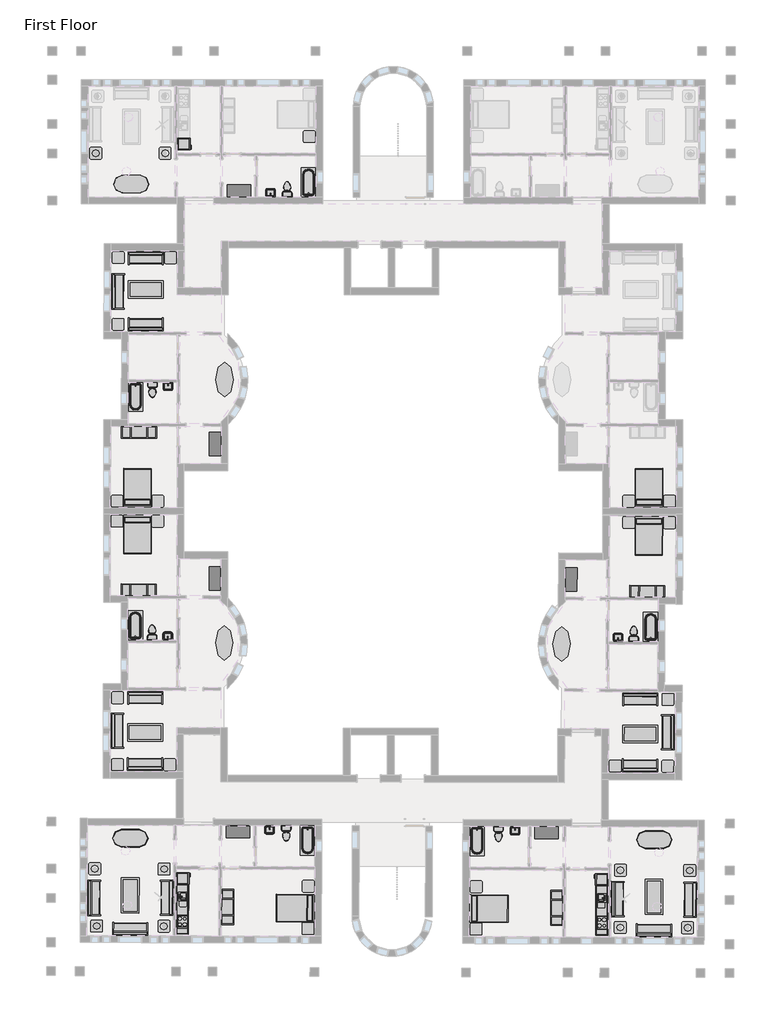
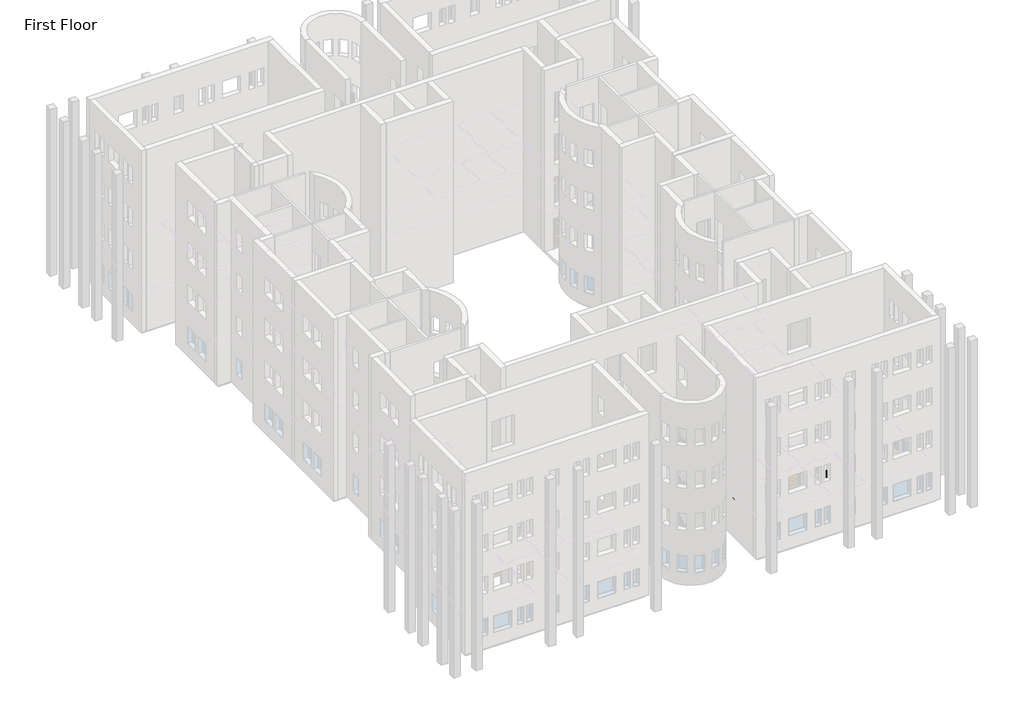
# One storey, part 21 of 22: 77 furniture elements, 20 flow terminals, 9 proxies.
"""IFC4 building model written with IfcOpenShell, lengths in millimetres."""

from ifc_helpers import new_model, si_unit, origin, place, context, project, spatial, transform, mapped, element, save
from components import m_cook_top_4_unit2_0615_x_500mm_249f3515, m_cook_top_4_unit2_0615_x_500mm_c91639ce, m_dishwasher_610_x_610_x_875mm_54ecfc4c, m_dishwasher_610_x_610_x_875mm_75336c20, m_kitchenette_medium_2591_ce898a11, m_kitchenette_medium_2591_5feaf90f, m_refrigerator_600_x_660mm_a466bf94, m_refrigerator_600_x_660mm_0a899b9c, m_sink_kitchen_island_450_x_450mm_f969cf2d, m_sink_kitchen_island_450_x_450mm_f6c2c534, m_sink_vanity_square_500_x_440mm_1e229b74, m_sink_vanity_square_500_x_440mm_f3cfe680, m_toilet_domestic_3d_m_toilet_domestic_3d_5cb52bd4, m_toilet_domestic_3d_m_toilet_domestic_3d_183bbd19, m_toilet_domestic_3d_m_toilet_domestic_3d_43425dfb, m_toilet_domestic_3d_m_toilet_domestic_3d_5530cc89, m_tub_rectangular_3d_m_tub_rectangular_3d_3a981ad5, m_tub_rectangular_3d_m_tub_rectangular_3d_c2020133, m_bed_shaker_1422_x_1981mm_double_096e7f55, m_bed_shaker_1422_x_1981mm_double_097b173b, m_counter_top_w_sink_hole_600mm_depth_5db41418, m_counter_top_w_sink_hole_600mm_depth_42226178, m_dresser_1220_x_1525_x_0610mm_18e1f140, m_dresser_1220_x_1525_x_0610mm_4e5de046, m_entertainment_center_1830_x_1830_x_0610mm_f77a9b93, m_entertainment_center_1830_x_1830_x_0610mm_4f6058a0, m_sofa_1830mm_58d08fc1, m_sofa_1830mm_3da2e71b, m_sofa1_1830mm_f9e8a66b, m_sofa1_1830mm_493d6964, m_table_coffee_0915_x_1830_x_0457mm_134cd960, m_table_coffee_0915_x_1830_x_0457mm_595c1ebd, m_table_dining_oval_0915_x_1830mm_a7cfbe21, m_table_dining_oval_0915_x_1830mm_ad8305c5, m_table_ellipse_1800_x_900mm_fd46d5a5, m_table_ellipse_1800_x_900mm_f7269293, m_table_end_cb6ea12e, m_table_end_aa2764bc, m_table_end_0610_x_0160mm_e0e5b28f, m_table_end_0610_x_0160mm_ccef8dc9

model = new_model("IFC4")

# Units and contexts
model_context = context("Model", 3, world=origin())
ifc_project = project(units=[si_unit("LENGTHUNIT", "METRE", prefix="MILLI")], contexts=[model_context])

# Site, building, storey
site = spatial("IfcSite", under=ifc_project)
building = spatial("IfcBuilding", under=site)
storey = spatial("IfcBuildingStorey", under=building, Name="First Floor", Elevation=0.0)

# Proxies
placement = place(None, origin())
m_cook_top_4_unit2_0615_x_500mm_shape = m_cook_top_4_unit2_0615_x_500mm_249f3515(model_context)
element("IfcBuildingElementProxy", 1, Name="M_Cook Top-4 Unit2 : 0615 x 500mm", ObjectType="M_Cook Top-4 Unit2 : 0615 x 500mm", at=placement, inside=storey, context=model_context, shape_type="MappedRepresentation", body=[
    mapped(m_cook_top_4_unit2_0615_x_500mm_shape, transform((-29920.9332305, -40997.2205846, 0.0), x_axis=(0.0028948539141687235, 0.9999958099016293, 0.0), y_axis=(-0.9999958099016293, 0.0028948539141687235, 0.0), z_axis=(0.0, 0.0, 1.0))),
])
m_cook_top_4_unit2_0615_x_500mm_2_shape = m_cook_top_4_unit2_0615_x_500mm_c91639ce(model_context)
element("IfcBuildingElementProxy", 2, Name="M_Cook Top-4 Unit2 : 0615 x 500mm", ObjectType="M_Cook Top-4 Unit2 : 0615 x 500mm", at=placement, inside=storey, context=model_context, shape_type="MappedRepresentation", body=[
    mapped(m_cook_top_4_unit2_0615_x_500mm_2_shape, transform((-8116.8245922, -41060.3405583, 0.0), x_axis=(0.0028948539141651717, 0.9999958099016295, 0.0), y_axis=(-0.9999958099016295, 0.0028948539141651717, 0.0), z_axis=(0.0, 0.0, 1.0))),
])
m_dishwasher_610_x_610_x_875mm_shape = m_dishwasher_610_x_610_x_875mm_54ecfc4c(model_context)
element("IfcBuildingElementProxy", 3, Name="M_Dishwasher : 610 x 610 x 875mm", ObjectType="M_Dishwasher : 610 x 610 x 875mm", at=placement, inside=storey, context=model_context, shape_type="MappedRepresentation", body=[
    mapped(m_dishwasher_610_x_610_x_875mm_shape, transform((-29650.6496208, -39742.2652263, 0.0), x_axis=(0.0028948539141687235, 0.9999958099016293, 0.0), y_axis=(-0.9999958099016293, 0.0028948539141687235, 0.0), z_axis=(0.0, 0.0, 1.0))),
])
m_dishwasher_610_x_610_x_875mm_2_shape = m_dishwasher_610_x_610_x_875mm_75336c20(model_context)
element("IfcBuildingElementProxy", 4, Name="M_Dishwasher : 610 x 610 x 875mm", ObjectType="M_Dishwasher : 610 x 610 x 875mm", at=placement, inside=storey, context=model_context, shape_type="MappedRepresentation", body=[
    mapped(m_dishwasher_610_x_610_x_875mm_2_shape, transform((-8379.8378775, -39803.8413769, 0.0), x_axis=(0.0028948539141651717, 0.9999958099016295, 0.0), y_axis=(-0.9999958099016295, 0.0028948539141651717, 0.0), z_axis=(0.0, 0.0, 1.0))),
])
m_kitchenette_medium_2591_shape = m_kitchenette_medium_2591_ce898a11(model_context)
element("IfcBuildingElementProxy", 5, Name="M_Kitchenette - Medium : 2591", ObjectType="M_Kitchenette - Medium : 2591", at=placement, inside=storey, context=model_context, shape_type="MappedRepresentation", body=[
    mapped(m_kitchenette_medium_2591_shape, transform((-30224.1110538, -40367.3279947, 0.0), x_axis=(0.0028948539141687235, 0.9999958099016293, 0.0), y_axis=(-0.9999958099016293, 0.0028948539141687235, 0.0), z_axis=(0.0, 0.0, 1.0))),
])
m_kitchenette_medium_2591_2_shape = m_kitchenette_medium_2591_5feaf90f(model_context)
element("IfcBuildingElementProxy", 6, Name="M_Kitchenette - Medium : 2591", ObjectType="M_Kitchenette - Medium : 2591", at=placement, inside=storey, context=model_context, shape_type="MappedRepresentation", body=[
    mapped(m_kitchenette_medium_2591_2_shape, transform((-7810.0049715, -40432.2138293, 0.0), x_axis=(0.0028948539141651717, 0.9999958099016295, 0.0), y_axis=(-0.9999958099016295, 0.0028948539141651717, 0.0), z_axis=(0.0, 0.0, 1.0))),
])
m_refrigerator_600_x_660mm_shape = m_refrigerator_600_x_660mm_a466bf94(model_context)
element("IfcBuildingElementProxy", 7, Name="M_Refrigerator : 600 x 660mm", ObjectType="M_Refrigerator : 600 x 660mm", at=placement, inside=storey, context=model_context, shape_type="MappedRepresentation", body=[
    mapped(m_refrigerator_600_x_660mm_shape, transform((-29923.068476, -38700.1536358, 0.0), x_axis=(0.0028948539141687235, 0.9999958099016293, 0.0), y_axis=(-0.9999958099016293, 0.0028948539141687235, 0.0), z_axis=(0.0, 0.0, 1.0))),
])
m_refrigerator_600_x_660mm_2_shape = m_refrigerator_600_x_660mm_0a899b9c(model_context)
element("IfcBuildingElementProxy", 8, Name="M_Refrigerator : 600 x 660mm", ObjectType="M_Refrigerator : 600 x 660mm", at=placement, inside=storey, context=model_context, shape_type="MappedRepresentation", body=[
    mapped(m_refrigerator_600_x_660mm_2_shape, transform((-29867.9765301, -638.2464817, 0.0), x_axis=(0.0, -1.0, 0.0), y_axis=(1.0, 0.0, 0.0), z_axis=(0.0, 0.0, 1.0))),
])
element("IfcBuildingElementProxy", 9, Name="M_Refrigerator : 600 x 660mm", ObjectType="M_Refrigerator : 600 x 660mm", at=placement, inside=storey, context=model_context, shape_type="MappedRepresentation", body=[
    mapped(m_refrigerator_600_x_660mm_2_shape, transform((-8101.3900917, -38763.3244716, 0.0), x_axis=(0.0028948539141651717, 0.9999958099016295, 0.0), y_axis=(-0.9999958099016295, 0.0028948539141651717, 0.0), z_axis=(0.0, 0.0, 1.0))),
])

# Flow terminals
m_sink_kitchen_island_450_x_450mm_shape = m_sink_kitchen_island_450_x_450mm_f969cf2d(model_context)
element("IfcFlowTerminal", 10, ObjectType="M_Sink Kitchen-Island : 450 x 450mm", at=placement, inside=storey, context=model_context, shape_type="MappedRepresentation", body=[
    mapped(m_sink_kitchen_island_450_x_450mm_shape, transform((-29914.882974, -39717.4219773, 0.0), x_axis=(0.0028948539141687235, 0.9999958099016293, 0.0), y_axis=(-0.9999958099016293, 0.0028948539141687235, 0.0), z_axis=(0.0, 0.0, 1.0))),
])
m_sink_kitchen_island_450_x_450mm_2_shape = m_sink_kitchen_island_450_x_450mm_f6c2c534(model_context)
element("IfcFlowTerminal", 11, ObjectType="M_Sink Kitchen-Island : 450 x 450mm", at=placement, inside=storey, context=model_context, shape_type="MappedRepresentation", body=[
    mapped(m_sink_kitchen_island_450_x_450mm_2_shape, transform((-8115.4651183, -39780.5283718, 0.0), x_axis=(0.0028948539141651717, 0.9999958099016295, 0.0), y_axis=(-0.9999958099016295, 0.0028948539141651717, 0.0), z_axis=(0.0, 0.0, 1.0))),
])
m_sink_vanity_square_500_x_440mm_shape = m_sink_vanity_square_500_x_440mm_1e229b74(model_context)
element("IfcFlowTerminal", 12, ObjectType="M_Sink Vanity-Square : 500 x 440mm", at=placement, inside=storey, context=model_context, shape_type="MappedRepresentation", body=[
    mapped(m_sink_vanity_square_500_x_440mm_shape, transform((-30677.3455366, -13134.5069817, 0.0), x_axis=(0.9999989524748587, -0.001447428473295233, 0.0), y_axis=(0.0014474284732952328, 0.9999989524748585, 0.0), z_axis=(0.0, 0.0, 0.9999999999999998))),
])
element("IfcFlowTerminal", 13, ObjectType="M_Sink Vanity-Square : 500 x 440mm", at=placement, inside=storey, context=model_context, shape_type="MappedRepresentation", body=[
    mapped(m_sink_vanity_square_500_x_440mm_shape, transform((-7255.849628, -26269.4593372, 0.0), x_axis=(-0.9999905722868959, 0.00434227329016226, 0.0), y_axis=(-0.0043422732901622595, -0.9999905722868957, 0.0), z_axis=(0.0, 0.0, 0.9999999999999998))),
])
element("IfcFlowTerminal", 14, ObjectType="M_Sink Vanity-Square : 500 x 440mm", at=placement, inside=storey, context=model_context, shape_type="MappedRepresentation", body=[
    mapped(m_sink_vanity_square_500_x_440mm_shape, transform((-25398.4470959, -36193.3769715, 0.0), x_axis=(0.9999958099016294, -0.0028948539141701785, 0.0), y_axis=(0.0028948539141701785, 0.9999958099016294, 0.0), z_axis=(0.0, 0.0, 1.0))),
])
m_sink_vanity_square_500_x_440mm_2_shape = m_sink_vanity_square_500_x_440mm_f3cfe680(model_context)
element("IfcFlowTerminal", 15, ObjectType="M_Sink Vanity-Square : 500 x 440mm", at=placement, inside=storey, context=model_context, shape_type="MappedRepresentation", body=[
    mapped(m_sink_vanity_square_500_x_440mm_2_shape, transform((-25350.6308609, -3158.1107603, 0.0), x_axis=(1.0, 0.0, 0.0), y_axis=(0.0, 1.0, 0.0), z_axis=(0.0, 0.0, 1.0))),
])
element("IfcFlowTerminal", 16, ObjectType="M_Sink Vanity-Square : 500 x 440mm", at=placement, inside=storey, context=model_context, shape_type="MappedRepresentation", body=[
    mapped(m_sink_vanity_square_500_x_440mm_2_shape, transform((-12611.4221939, -36230.3936957, 0.0), x_axis=(-0.9999958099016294, 0.002894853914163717, 0.0), y_axis=(-0.002894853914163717, -0.9999958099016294, 0.0), z_axis=(0.0, 0.0, 1.0))),
])
element("IfcFlowTerminal", 17, ObjectType="M_Sink Vanity-Square : 500 x 440mm", at=placement, inside=storey, context=model_context, shape_type="MappedRepresentation", body=[
    mapped(m_sink_vanity_square_500_x_440mm_2_shape, transform((-30696.2592425, -26201.6024913, 0.0), x_axis=(0.9999989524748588, -0.001447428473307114, 0.0), y_axis=(0.0014474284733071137, 0.9999989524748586, 0.0), z_axis=(0.0, 0.0, 0.9999999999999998))),
])
m_toilet_domestic_3d_m_toilet_domestic_3d_shape = m_toilet_domestic_3d_m_toilet_domestic_3d_5cb52bd4(model_context)
m_toilet_domestic_3d_m_toilet_domestic_3d_2_shape = m_toilet_domestic_3d_m_toilet_domestic_3d_183bbd19(model_context)
element("IfcFlowTerminal", 18, ObjectType="M_Toilet-Domestic-3D : M_Toilet-Domestic-3D", at=placement, inside=storey, context=model_context, shape_type="MappedRepresentation", body=[
    mapped(m_toilet_domestic_3d_m_toilet_domestic_3d_shape, transform((-24522.1713775, -36508.8406097, 0.0), x_axis=(0.9999958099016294, -0.00289485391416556, 0.0), y_axis=(0.00289485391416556, 0.9999958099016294, 0.0), z_axis=(0.0, 0.0, 1.0))),
    mapped(m_toilet_domestic_3d_m_toilet_domestic_3d_2_shape, transform((-24522.1713775, -36508.8406097, 0.0), x_axis=(0.9999958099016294, -0.00289485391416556, 0.0), y_axis=(0.00289485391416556, 0.9999958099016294, 0.0), z_axis=(0.0, 0.0, 1.0))),
])
m_toilet_domestic_3d_m_toilet_domestic_3d_3_shape = m_toilet_domestic_3d_m_toilet_domestic_3d_43425dfb(model_context)
m_toilet_domestic_3d_m_toilet_domestic_3d_4_shape = m_toilet_domestic_3d_m_toilet_domestic_3d_5530cc89(model_context)
element("IfcFlowTerminal", 19, ObjectType="M_Toilet-Domestic-3D : M_Toilet-Domestic-3D", at=placement, inside=storey, context=model_context, shape_type="MappedRepresentation", body=[
    mapped(m_toilet_domestic_3d_m_toilet_domestic_3d_3_shape, transform((-24473.445593, -2845.185134, 0.0), x_axis=(1.0, 0.0, 0.0), y_axis=(0.0, 1.0, 0.0), z_axis=(0.0, 0.0, 1.0))),
    mapped(m_toilet_domestic_3d_m_toilet_domestic_3d_4_shape, transform((-24473.445593, -2845.185134, 0.0), x_axis=(1.0, 0.0, 0.0), y_axis=(0.0, 1.0, 0.0), z_axis=(0.0, 0.0, 1.0))),
])
element("IfcFlowTerminal", 20, ObjectType="M_Toilet-Domestic-3D : M_Toilet-Domestic-3D", at=placement, inside=storey, context=model_context, shape_type="MappedRepresentation", body=[
    mapped(m_toilet_domestic_3d_m_toilet_domestic_3d_3_shape, transform((-13489.5096603, -36540.7786875, 0.0), x_axis=(-0.9999958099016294, 0.002894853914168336, 0.0), y_axis=(-0.002894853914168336, -0.9999958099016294, 0.0), z_axis=(0.0, 0.0, 1.0))),
    mapped(m_toilet_domestic_3d_m_toilet_domestic_3d_4_shape, transform((-13489.5096603, -36540.7786875, 0.0), x_axis=(-0.9999958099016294, 0.002894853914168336, 0.0), y_axis=(-0.002894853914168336, -0.9999958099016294, 0.0), z_axis=(0.0, 0.0, 1.0))),
])
element("IfcFlowTerminal", 21, ObjectType="M_Toilet-Domestic-3D1 : M_Toilet-Domestic-3D", at=placement, inside=storey, context=model_context, shape_type="MappedRepresentation", body=[
    mapped(m_toilet_domestic_3d_m_toilet_domestic_3d_shape, transform((-31475.0435019, -13456.0033339, 0.0), x_axis=(0.9999989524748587, -0.001447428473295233, 0.0), y_axis=(0.0014474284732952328, 0.9999989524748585, 0.0), z_axis=(0.0, 0.0, 0.9999999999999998))),
    mapped(m_toilet_domestic_3d_m_toilet_domestic_3d_2_shape, transform((-31475.0435019, -13456.0033339, 0.0), x_axis=(0.9999989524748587, -0.001447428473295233, 0.0), y_axis=(0.0014474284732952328, 0.9999989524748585, 0.0), z_axis=(0.0, 0.0, 0.9999999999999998))),
])
element("IfcFlowTerminal", 22, ObjectType="M_Toilet-Domestic-3D1 : M_Toilet-Domestic-3D", at=placement, inside=storey, context=model_context, shape_type="MappedRepresentation", body=[
    mapped(m_toilet_domestic_3d_m_toilet_domestic_3d_shape, transform((-6457.2243201, -25950.2735511, 0.0), x_axis=(-0.9999905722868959, 0.00434227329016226, 0.0), y_axis=(-0.0043422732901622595, -0.9999905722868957, 0.0), z_axis=(0.0, 0.0, 0.9999999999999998))),
    mapped(m_toilet_domestic_3d_m_toilet_domestic_3d_2_shape, transform((-6457.2243201, -25950.2735511, 0.0), x_axis=(-0.9999905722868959, 0.00434227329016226, 0.0), y_axis=(-0.0043422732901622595, -0.9999905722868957, 0.0), z_axis=(0.0, 0.0, 0.9999999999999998))),
])
element("IfcFlowTerminal", 23, ObjectType="M_Toilet-Domestic-3D1 : M_Toilet-Domestic-3D", at=placement, inside=storey, context=model_context, shape_type="MappedRepresentation", body=[
    mapped(m_toilet_domestic_3d_m_toilet_domestic_3d_3_shape, transform((-31493.0231805, -25877.7982671, 0.0), x_axis=(0.9999989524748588, -0.001447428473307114, 0.0), y_axis=(0.0014474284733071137, 0.9999989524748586, 0.0), z_axis=(0.0, 0.0, 0.9999999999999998))),
    mapped(m_toilet_domestic_3d_m_toilet_domestic_3d_4_shape, transform((-31493.0231805, -25877.7982671, 0.0), x_axis=(0.9999989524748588, -0.001447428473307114, 0.0), y_axis=(0.0014474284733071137, 0.9999989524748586, 0.0), z_axis=(0.0, 0.0, 0.9999999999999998))),
])
m_tub_rectangular_3d_m_tub_rectangular_3d_shape = m_tub_rectangular_3d_m_tub_rectangular_3d_3a981ad5(model_context)
element("IfcFlowTerminal", 24, ObjectType="M_Tub-Rectangular-3D : M_Tub-Rectangular-3D", at=placement, inside=storey, context=model_context, shape_type="MappedRepresentation", body=[
    mapped(m_tub_rectangular_3d_m_tub_rectangular_3d_shape, transform((-22854.3573612, -37129.57823, 0.0), x_axis=(-0.0028948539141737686, -0.9999958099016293, 0.0), y_axis=(0.9999958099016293, -0.0028948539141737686, 0.0), z_axis=(0.0, 0.0, 1.0))),
])
element("IfcFlowTerminal", 25, ObjectType="M_Tub-Rectangular-3D : M_Tub-Rectangular-3D", at=placement, inside=storey, context=model_context, shape_type="MappedRepresentation", body=[
    mapped(m_tub_rectangular_3d_m_tub_rectangular_3d_shape, transform((-32926.5841692, -25259.8157014, 0.0), x_axis=(0.0014474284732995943, 0.9999989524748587, 0.0), y_axis=(-0.9999989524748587, 0.0014474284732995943, 0.0), z_axis=(0.0, 0.0, 1.0))),
])
m_tub_rectangular_3d_m_tub_rectangular_3d_2_shape = m_tub_rectangular_3d_m_tub_rectangular_3d_c2020133(model_context)
element("IfcFlowTerminal", 26, ObjectType="M_Tub-Rectangular-3D : M_Tub-Rectangular-3D", at=placement, inside=storey, context=model_context, shape_type="MappedRepresentation", body=[
    mapped(m_tub_rectangular_3d_m_tub_rectangular_3d_2_shape, transform((-22803.8416203, -2229.2781927, 0.0), x_axis=(0.0, 1.0, 0.0), y_axis=(-1.0, 0.0, 0.0), z_axis=(0.0, 0.0, 1.0))),
])
element("IfcFlowTerminal", 27, ObjectType="M_Tub-Rectangular-3D : M_Tub-Rectangular-3D", at=placement, inside=storey, context=model_context, shape_type="MappedRepresentation", body=[
    mapped(m_tub_rectangular_3d_m_tub_rectangular_3d_2_shape, transform((-32910.3874532, -14069.8333606, 0.0), x_axis=(-0.0014474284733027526, -0.9999989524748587, 0.0), y_axis=(0.9999989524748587, -0.0014474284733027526, 0.0), z_axis=(0.0, 0.0, 1.0))),
])
element("IfcFlowTerminal", 28, ObjectType="M_Tub-Rectangular-3D : M_Tub-Rectangular-3D", at=placement, inside=storey, context=model_context, shape_type="MappedRepresentation", body=[
    mapped(m_tub_rectangular_3d_m_tub_rectangular_3d_2_shape, transform((-15160.8895978, -37151.8497886, 0.0), x_axis=(-0.0028948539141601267, -0.9999958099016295, 0.0), y_axis=(0.9999958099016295, -0.0028948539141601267, 0.0), z_axis=(0.0, 0.0, 1.0))),
])
element("IfcFlowTerminal", 29, ObjectType="M_Tub-Rectangular-3D : M_Tub-Rectangular-3D", at=placement, inside=storey, context=model_context, shape_type="MappedRepresentation", body=[
    mapped(m_tub_rectangular_3d_m_tub_rectangular_3d_2_shape, transform((-5020.1094348, -25340.6012075, 0.0), x_axis=(0.004342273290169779, 0.9999905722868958, 0.0), y_axis=(-0.9999905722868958, 0.004342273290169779, 0.0), z_axis=(0.0, 0.0, 1.0))),
])

# Furniture
m_bed_shaker_1422_x_1981mm_double_shape = m_bed_shaker_1422_x_1981mm_double_096e7f55(model_context)
element("IfcFurniture", 30, ObjectType="M_Bed-Shaker : 1422 x 1981mm - Double", at=placement, inside=storey, context=model_context, shape_type="MappedRepresentation", body=[
    mapped(m_bed_shaker_1422_x_1981mm_double_shape, transform((-32265.3963493, -19430.7695861, 0.0), x_axis=(-0.9999989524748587, 0.0014474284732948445, 0.0), y_axis=(-0.0014474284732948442, -0.9999989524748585, 0.0), z_axis=(0.0, 0.0, 0.9999999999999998))),
])
element("IfcFurniture", 31, ObjectType="M_Bed-Shaker : 1422 x 1981mm - Double", at=placement, inside=storey, context=model_context, shape_type="MappedRepresentation", body=[
    mapped(m_bed_shaker_1422_x_1981mm_double_shape, transform((-5649.5787089, -19977.8202898, 0.0), x_axis=(0.9999905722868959, -0.004342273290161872, 0.0), y_axis=(0.004342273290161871, 0.9999905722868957, 0.0), z_axis=(0.0, 0.0, 0.9999999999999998))),
])
element("IfcFurniture", 32, ObjectType="M_Bed-Shaker : 1422 x 1981mm - Double", at=placement, inside=storey, context=model_context, shape_type="MappedRepresentation", body=[
    mapped(m_bed_shaker_1422_x_1981mm_double_shape, transform((-23068.6004859, -40322.2184362, 0.0), x_axis=(-0.002894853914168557, -0.9999958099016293, 0.0), y_axis=(0.9999958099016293, -0.002894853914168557, 0.0), z_axis=(0.0, 0.0, 1.0))),
])
m_bed_shaker_1422_x_1981mm_double_2_shape = m_bed_shaker_1422_x_1981mm_double_097b173b(model_context)
element("IfcFurniture", 33, ObjectType="M_Bed-Shaker : 1422 x 1981mm - Double", at=placement, inside=storey, context=model_context, shape_type="MappedRepresentation", body=[
    mapped(m_bed_shaker_1422_x_1981mm_double_2_shape, transform((-5648.7868913, -19430.7695861, 0.0), x_axis=(0.9999989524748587, 0.0014474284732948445, 0.0), y_axis=(-0.0014474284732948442, 0.9999989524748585, 0.0), z_axis=(0.0, 0.0, 0.9999999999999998))),
])
element("IfcFurniture", 34, ObjectType="M_Bed-Shaker : 1422 x 1981mm - Double", at=placement, inside=storey, context=model_context, shape_type="MappedRepresentation", body=[
    mapped(m_bed_shaker_1422_x_1981mm_double_2_shape, transform((-14965.1344404, -40345.6768849, 0.0), x_axis=(-0.0028948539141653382, -0.9999958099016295, 0.0), y_axis=(0.9999958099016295, -0.0028948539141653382, 0.0), z_axis=(0.0, 0.0, 1.0))),
])
element("IfcFurniture", 35, ObjectType="M_Bed-Shaker : 1422 x 1981mm - Double", at=placement, inside=storey, context=model_context, shape_type="MappedRepresentation", body=[
    mapped(m_bed_shaker_1422_x_1981mm_double_2_shape, transform((-32266.0766407, -19900.7690938, 0.0), x_axis=(-0.9999989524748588, 0.0014474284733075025, 0.0), y_axis=(-0.0014474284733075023, -0.9999989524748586, 0.0), z_axis=(0.0, 0.0, 0.9999999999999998))),
])
m_counter_top_w_sink_hole_600mm_depth_shape = m_counter_top_w_sink_hole_600mm_depth_5db41418(model_context)
element("IfcFurniture", 36, ObjectType="M_Counter Top w Sink Hole : 600mm Depth", at=placement, inside=storey, context=model_context, shape_type="MappedRepresentation", body=[
    mapped(m_counter_top_w_sink_hole_600mm_depth_shape, transform((-30222.5675177, -39834.1302289, 0.0), x_axis=(0.0028948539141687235, 0.9999958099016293, 0.0), y_axis=(-0.9999958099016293, 0.0028948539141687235, 0.0), z_axis=(0.0, 0.0, 1.0))),
])
m_counter_top_w_sink_hole_600mm_depth_2_shape = m_counter_top_w_sink_hole_600mm_depth_42226178(model_context)
element("IfcFurniture", 37, ObjectType="M_Counter Top w Sink Hole : 600mm Depth", at=placement, inside=storey, context=model_context, shape_type="MappedRepresentation", body=[
    mapped(m_counter_top_w_sink_hole_600mm_depth_2_shape, transform((-7808.4614354, -39899.0160635, 0.0), x_axis=(0.0028948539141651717, 0.9999958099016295, 0.0), y_axis=(-0.9999958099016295, 0.0028948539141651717, 0.0), z_axis=(0.0, 0.0, 1.0))),
])
m_dresser_1220_x_1525_x_0610mm_shape = m_dresser_1220_x_1525_x_0610mm_18e1f140(model_context)
element("IfcFurniture", 38, ObjectType="M_Dresser : 1220 x 1525 x 0610mm", at=placement, inside=storey, context=model_context, shape_type="MappedRepresentation", body=[
    mapped(m_dresser_1220_x_1525_x_0610mm_shape, transform((-28574.6164889, -15914.9147832, 0.0), x_axis=(0.0014474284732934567, 0.9999989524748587, 0.0), y_axis=(-0.9999989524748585, 0.0014474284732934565, 0.0), z_axis=(0.0, 0.0, 0.9999999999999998))),
])
element("IfcFurniture", 39, ObjectType="M_Dresser : 1220 x 1525 x 0610mm", at=placement, inside=storey, context=model_context, shape_type="MappedRepresentation", body=[
    mapped(m_dresser_1220_x_1525_x_0610mm_shape, transform((-9350.5209907, -23482.9760924, 0.0), x_axis=(-0.004342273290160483, -0.9999905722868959, 0.0), y_axis=(0.9999905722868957, -0.004342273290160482, 0.0), z_axis=(0.0, 0.0, 0.9999999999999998))),
])
element("IfcFurniture", 40, ObjectType="M_Dresser : 1220 x 1525 x 0610mm", at=placement, inside=storey, context=model_context, shape_type="MappedRepresentation", body=[
    mapped(m_dresser_1220_x_1525_x_0610mm_shape, transform((-27295.820683, -36698.2790207, 0.0), x_axis=(-0.9999958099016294, 0.0028948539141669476, 0.0), y_axis=(-0.0028948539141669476, -0.9999958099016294, 0.0), z_axis=(0.0, 0.0, 1.0))),
])
m_dresser_1220_x_1525_x_0610mm_2_shape = m_dresser_1220_x_1525_x_0610mm_4e5de046(model_context)
element("IfcFurniture", 41, ObjectType="M_Dresser : 1220 x 1525 x 0610mm", at=placement, inside=storey, context=model_context, shape_type="MappedRepresentation", body=[
    mapped(m_dresser_1220_x_1525_x_0610mm_2_shape, transform((-27246.5348802, -2647.7182073, 0.0), x_axis=(-1.0, 0.0, 0.0), y_axis=(0.0, -1.0, 0.0), z_axis=(0.0, 0.0, 1.0))),
])
element("IfcFurniture", 42, ObjectType="M_Dresser : 1220 x 1525 x 0610mm", at=placement, inside=storey, context=model_context, shape_type="MappedRepresentation", body=[
    mapped(m_dresser_1220_x_1525_x_0610mm_2_shape, transform((-10717.0036305, -36746.2724752, 0.0), x_axis=(0.9999958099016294, -0.002894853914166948, 0.0), y_axis=(0.002894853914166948, 0.9999958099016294, 0.0), z_axis=(0.0, 0.0, 1.0))),
])
element("IfcFurniture", 43, ObjectType="M_Dresser : 1220 x 1525 x 0610mm", at=placement, inside=storey, context=model_context, shape_type="MappedRepresentation", body=[
    mapped(m_dresser_1220_x_1525_x_0610mm_2_shape, transform((-28585.490131, -23427.2934334, 0.0), x_axis=(-0.0014474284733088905, -0.9999989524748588, 0.0), y_axis=(0.9999989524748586, -0.0014474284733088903, 0.0), z_axis=(0.0, 0.0, 0.9999999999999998))),
])
m_entertainment_center_1830_x_1830_x_0610mm_shape = m_entertainment_center_1830_x_1830_x_0610mm_f77a9b93(model_context)
element("IfcFurniture", 44, ObjectType="M_Entertainment center : 1830 x 1830 x 0610mm", at=placement, inside=storey, context=model_context, shape_type="MappedRepresentation", body=[
    mapped(m_entertainment_center_1830_x_1830_x_0610mm_shape, transform((-32173.151944, -15980.2994888, 0.0), x_axis=(-0.9999989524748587, 0.0014474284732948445, 0.0), y_axis=(-0.0014474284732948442, -0.9999989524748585, 0.0), z_axis=(0.0, 0.0, 0.9999999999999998))),
])
element("IfcFurniture", 45, ObjectType="M_Entertainment center : 1830 x 1830 x 0610mm", at=placement, inside=storey, context=model_context, shape_type="MappedRepresentation", body=[
    mapped(m_entertainment_center_1830_x_1830_x_0610mm_shape, transform((-5751.8113346, -23428.0088952, 0.0), x_axis=(0.9999905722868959, -0.004342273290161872, 0.0), y_axis=(0.004342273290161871, 0.9999905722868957, 0.0), z_axis=(0.0, 0.0, 0.9999999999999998))),
])
element("IfcFurniture", 46, ObjectType="M_Entertainment center : 1830 x 1830 x 0610mm", at=placement, inside=storey, context=model_context, shape_type="MappedRepresentation", body=[
    mapped(m_entertainment_center_1830_x_1830_x_0610mm_shape, transform((-27155.4724705, -40237.537184, 0.0), x_axis=(-0.0028948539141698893, -0.9999958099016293, 0.0), y_axis=(0.9999958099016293, -0.0028948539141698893, 0.0), z_axis=(0.0, 0.0, 1.0))),
])
m_entertainment_center_1830_x_1830_x_0610mm_2_shape = m_entertainment_center_1830_x_1830_x_0610mm_4f6058a0(model_context)
element("IfcFurniture", 47, ObjectType="M_Entertainment center : 1830 x 1830 x 0610mm", at=placement, inside=storey, context=model_context, shape_type="MappedRepresentation", body=[
    mapped(m_entertainment_center_1830_x_1830_x_0610mm_2_shape, transform((-10877.8406756, -40284.6587476, 0.0), x_axis=(-0.002894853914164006, -0.9999958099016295, 0.0), y_axis=(0.9999958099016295, -0.002894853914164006, 0.0), z_axis=(0.0, 0.0, 1.0))),
])
element("IfcFurniture", 48, ObjectType="M_Entertainment center : 1830 x 1830 x 0610mm", at=placement, inside=storey, context=model_context, shape_type="MappedRepresentation", body=[
    mapped(m_entertainment_center_1830_x_1830_x_0610mm_2_shape, transform((-32183.8212288, -23351.4917673, 0.0), x_axis=(-0.9999989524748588, 0.0014474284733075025, 0.0), y_axis=(-0.0014474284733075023, -0.9999989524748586, 0.0), z_axis=(0.0, 0.0, 0.9999999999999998))),
])
m_sofa_1830mm_shape = m_sofa_1830mm_58d08fc1(model_context)
element("IfcFurniture", 49, ObjectType="M_Sofa : 1830mm", at=placement, inside=storey, context=model_context, shape_type="MappedRepresentation", body=[
    mapped(m_sofa_1830mm_shape, transform((-32562.8997947, -41230.7335351, 0.0), x_axis=(-0.9999958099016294, 0.0028948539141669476, 0.0), y_axis=(-0.0028948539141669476, -0.9999958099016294, 0.0), z_axis=(0.0, 0.0, 1.0))),
])
element("IfcFurniture", 50, ObjectType="M_Sofa : 1830mm", at=placement, inside=storey, context=model_context, shape_type="MappedRepresentation", body=[
    mapped(m_sofa_1830mm_shape, transform((-34355.4280294, -39842.8427064, 0.0), x_axis=(0.0028948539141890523, 0.9999958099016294, 0.0), y_axis=(-0.9999958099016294, 0.0028948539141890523, 0.0), z_axis=(0.0, 0.0, 1.0))),
])
element("IfcFurniture", 51, ObjectType="M_Sofa : 1830mm", at=placement, inside=storey, context=model_context, shape_type="MappedRepresentation", body=[
    mapped(m_sofa_1830mm_shape, transform((-30883.7111212, -39691.3716975, 0.0), x_axis=(-0.002894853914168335, -0.9999958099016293, 0.0), y_axis=(0.9999958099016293, -0.002894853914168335, 0.0), z_axis=(0.0, 0.0, 1.0))),
])
m_sofa_1830mm_2_shape = m_sofa_1830mm_3da2e71b(model_context)
element("IfcFurniture", 52, ObjectType="M_Sofa : 1830mm", at=placement, inside=storey, context=model_context, shape_type="MappedRepresentation", body=[
    mapped(m_sofa_1830mm_2_shape, transform((-5476.2542745, -41309.1457454, 0.0), x_axis=(0.9999958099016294, -0.002894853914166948, 0.0), y_axis=(0.002894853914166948, 0.9999958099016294, 0.0), z_axis=(0.0, 0.0, 1.0))),
])
element("IfcFurniture", 53, ObjectType="M_Sofa : 1830mm", at=placement, inside=storey, context=model_context, shape_type="MappedRepresentation", body=[
    mapped(m_sofa_1830mm_2_shape, transform((-3675.7206344, -39931.6563496, 0.0), x_axis=(0.002894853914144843, 0.9999958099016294, 0.0), y_axis=(-0.9999958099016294, 0.002894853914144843, 0.0), z_axis=(0.0, 0.0, 1.0))),
])
element("IfcFurniture", 54, ObjectType="M_Sofa : 1830mm", at=placement, inside=storey, context=model_context, shape_type="MappedRepresentation", body=[
    mapped(m_sofa_1830mm_2_shape, transform((-7146.5023862, -39760.087737, 0.0), x_axis=(-0.0028948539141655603, -0.9999958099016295, 0.0), y_axis=(0.9999958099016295, -0.0028948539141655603, 0.0), z_axis=(0.0, 0.0, 1.0))),
])
m_sofa1_1830mm_shape = m_sofa1_1830mm_f9e8a66b(model_context)
element("IfcFurniture", 55, ObjectType="M_Sofa1 : 1830mm", at=placement, inside=storey, context=model_context, shape_type="MappedRepresentation", body=[
    mapped(m_sofa1_1830mm_shape, transform((-33110.3167447, -8323.9054813, 0.0), x_axis=(0.0014474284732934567, 0.9999989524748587, 0.0), y_axis=(-0.9999989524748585, 0.0014474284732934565, 0.0), z_axis=(0.0, 0.0, 0.9999999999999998))),
])
element("IfcFurniture", 56, ObjectType="M_Sofa1 : 1830mm", at=placement, inside=storey, context=model_context, shape_type="MappedRepresentation", body=[
    mapped(m_sofa1_1830mm_shape, transform((-31753.247914, -9808.5967065, 0.0), x_axis=(-0.9999989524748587, 0.0014474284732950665, 0.0), y_axis=(-0.0014474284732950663, -0.9999989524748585, 0.0), z_axis=(0.0, 0.0, 0.9999999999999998))),
])
element("IfcFurniture", 57, ObjectType="M_Sofa1 : 1830mm", at=placement, inside=storey, context=model_context, shape_type="MappedRepresentation", body=[
    mapped(m_sofa1_1830mm_shape, transform((-31889.4482513, -6671.4544767, 0.0), x_axis=(0.9999989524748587, -0.001447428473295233, 0.0), y_axis=(0.0014474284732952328, 0.9999989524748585, 0.0), z_axis=(0.0, 0.0, 0.9999999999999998))),
])
element("IfcFurniture", 58, ObjectType="M_Sofa1 : 1830mm", at=placement, inside=storey, context=model_context, shape_type="MappedRepresentation", body=[
    mapped(m_sofa1_1830mm_shape, transform((-4836.8146029, -31087.0837768, 0.0), x_axis=(-0.004342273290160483, -0.9999905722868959, 0.0), y_axis=(0.9999905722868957, -0.004342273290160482, 0.0), z_axis=(0.0, 0.0, 0.9999999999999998))),
])
element("IfcFurniture", 59, ObjectType="M_Sofa1 : 1830mm", at=placement, inside=storey, context=model_context, shape_type="MappedRepresentation", body=[
    mapped(m_sofa1_1830mm_shape, transform((-6189.5797831, -29598.4702567, 0.0), x_axis=(0.9999905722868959, -0.004342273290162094, 0.0), y_axis=(0.004342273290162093, 0.9999905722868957, 0.0), z_axis=(0.0, 0.0, 0.9999999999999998))),
])
element("IfcFurniture", 60, ObjectType="M_Sofa1 : 1830mm", at=placement, inside=storey, context=model_context, shape_type="MappedRepresentation", body=[
    mapped(m_sofa1_1830mm_shape, transform((-6062.461585, -32735.9936216, 0.0), x_axis=(-0.9999905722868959, 0.00434227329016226, 0.0), y_axis=(-0.0043422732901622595, -0.9999905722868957, 0.0), z_axis=(0.0, 0.0, 0.9999999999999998))),
])
m_sofa1_1830mm_2_shape = m_sofa1_1830mm_493d6964(model_context)
element("IfcFurniture", 61, ObjectType="M_Sofa1 : 1830mm", at=placement, inside=storey, context=model_context, shape_type="MappedRepresentation", body=[
    mapped(m_sofa1_1830mm_2_shape, transform((-33143.1462448, -31005.1407385, 0.0), x_axis=(-0.0014474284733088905, -0.9999989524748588, 0.0), y_axis=(0.9999989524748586, -0.0014474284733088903, 0.0), z_axis=(0.0, 0.0, 0.9999999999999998))),
])
element("IfcFurniture", 62, ObjectType="M_Sofa1 : 1830mm", at=placement, inside=storey, context=model_context, shape_type="MappedRepresentation", body=[
    mapped(m_sofa1_1830mm_2_shape, transform((-31781.7851362, -29524.3842504, 0.0), x_axis=(-0.9999989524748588, 0.0014474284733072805, 0.0), y_axis=(-0.0014474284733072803, -0.9999989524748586, 0.0), z_axis=(0.0, 0.0, 0.9999999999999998))),
])
element("IfcFurniture", 63, ObjectType="M_Sofa1 : 1830mm", at=placement, inside=storey, context=model_context, shape_type="MappedRepresentation", body=[
    mapped(m_sofa1_1830mm_2_shape, transform((-31927.0664712, -32661.1190552, 0.0), x_axis=(0.9999989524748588, -0.001447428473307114, 0.0), y_axis=(0.0014474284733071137, 0.9999989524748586, 0.0), z_axis=(0.0, 0.0, 0.9999999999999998))),
])
m_table_coffee_0915_x_1830_x_0457mm_shape = m_table_coffee_0915_x_1830_x_0457mm_134cd960(model_context)
element("IfcFurniture", 64, ObjectType="M_Table-Coffee : 0915 x 1830 x 0457mm", at=placement, inside=storey, context=model_context, shape_type="MappedRepresentation", body=[
    mapped(m_table_coffee_0915_x_1830_x_0457mm_shape, transform((-31802.8209497, -8059.4661414, 0.0), x_axis=(-0.9999989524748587, 0.0014474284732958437, 0.0), y_axis=(-0.0014474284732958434, -0.9999989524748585, 0.0), z_axis=(0.0, 0.0, 0.9999999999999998))),
])
element("IfcFurniture", 65, ObjectType="M_Table-Coffee : 0915 x 1830 x 0457mm", at=placement, inside=storey, context=model_context, shape_type="MappedRepresentation", body=[
    mapped(m_table_coffee_0915_x_1830_x_0457mm_shape, transform((-6145.0704326, -31347.7369995, 0.0), x_axis=(0.9999905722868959, -0.004342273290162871, 0.0), y_axis=(0.00434227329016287, 0.9999905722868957, 0.0), z_axis=(0.0, 0.0, 0.9999999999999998))),
])
element("IfcFurniture", 66, ObjectType="M_Table-Coffee : 0915 x 1830 x 0457mm", at=placement, inside=storey, context=model_context, shape_type="MappedRepresentation", body=[
    mapped(m_table_coffee_0915_x_1830_x_0457mm_shape, transform((-32723.8138427, -39618.1492872, 0.0), x_axis=(-0.0028948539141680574, -0.9999958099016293, 0.0), y_axis=(0.9999958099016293, -0.0028948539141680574, 0.0), z_axis=(0.0, 0.0, 1.0))),
])
m_table_coffee_0915_x_1830_x_0457mm_2_shape = m_table_coffee_0915_x_1830_x_0457mm_595c1ebd(model_context)
element("IfcFurniture", 67, ObjectType="M_Table-Coffee : 0915 x 1830 x 0457mm", at=placement, inside=storey, context=model_context, shape_type="MappedRepresentation", body=[
    mapped(m_table_coffee_0915_x_1830_x_0457mm_2_shape, transform((-5306.0065709, -39697.5201665, 0.0), x_axis=(-0.002894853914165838, -0.9999958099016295, 0.0), y_axis=(0.9999958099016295, -0.002894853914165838, 0.0), z_axis=(0.0, 0.0, 1.0))),
])
element("IfcFurniture", 68, ObjectType="M_Table-Coffee : 0915 x 1830 x 0457mm", at=placement, inside=storey, context=model_context, shape_type="MappedRepresentation", body=[
    mapped(m_table_coffee_0915_x_1830_x_0457mm_2_shape, transform((-31836.4214416, -31273.3639798, 0.0), x_axis=(-0.9999989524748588, 0.0014474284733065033, 0.0), y_axis=(-0.001447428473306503, -0.9999989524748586, 0.0), z_axis=(0.0, 0.0, 0.9999999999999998))),
])
m_table_dining_oval_0915_x_1830mm_shape = m_table_dining_oval_0915_x_1830mm_a7cfbe21(model_context)
element("IfcFurniture", 69, ObjectType="M_Table-Dining Oval : 0915 x 1830mm", at=placement, inside=storey, context=model_context, shape_type="MappedRepresentation", body=[
    mapped(m_table_dining_oval_0915_x_1830mm_shape, transform((-33022.9144028, -37024.136693, 0.0), x_axis=(-0.9999958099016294, 0.0028948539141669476, 0.0), y_axis=(-0.0028948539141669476, -0.9999958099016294, 0.0), z_axis=(0.0, 0.0, 1.0))),
])
m_table_dining_oval_0915_x_1830mm_2_shape = m_table_dining_oval_0915_x_1830mm_ad8305c5(model_context)
element("IfcFurniture", 70, ObjectType="M_Table-Dining Oval : 0915 x 1830mm", at=placement, inside=storey, context=model_context, shape_type="MappedRepresentation", body=[
    mapped(m_table_dining_oval_0915_x_1830mm_2_shape, transform((-32972.6612925, -2305.2828007, 0.0), x_axis=(-1.0, 0.0, 0.0), y_axis=(0.0, -1.0, 0.0), z_axis=(0.0, 0.0, 1.0))),
])
element("IfcFurniture", 71, ObjectType="M_Table-Dining Oval : 0915 x 1830mm", at=placement, inside=storey, context=model_context, shape_type="MappedRepresentation", body=[
    mapped(m_table_dining_oval_0915_x_1830mm_2_shape, transform((-4991.8925118, -37105.2827464, 0.0), x_axis=(0.9999958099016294, -0.002894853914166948, 0.0), y_axis=(0.002894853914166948, 0.9999958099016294, 0.0), z_axis=(0.0, 0.0, 1.0))),
])
m_table_ellipse_1800_x_900mm_shape = m_table_ellipse_1800_x_900mm_fd46d5a5(model_context)
element("IfcFurniture", 72, ObjectType="M_Table-Ellipse : 1800 x 900mm", at=placement, inside=storey, context=model_context, shape_type="MappedRepresentation", body=[
    mapped(m_table_ellipse_1800_x_900mm_shape, transform((-27726.9892362, -12831.2316926, 0.0), x_axis=(0.0014474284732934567, 0.9999989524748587, 0.0), y_axis=(-0.9999989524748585, 0.0014474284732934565, 0.0), z_axis=(0.0, 0.0, 0.9999999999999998))),
])
element("IfcFurniture", 73, ObjectType="M_Table-Ellipse : 1800 x 900mm", at=placement, inside=storey, context=model_context, shape_type="MappedRepresentation", body=[
    mapped(m_table_ellipse_1800_x_900mm_shape, transform((-10207.0715038, -26564.192505, 0.0), x_axis=(-0.004342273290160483, -0.9999905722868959, 0.0), y_axis=(0.9999905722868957, -0.004342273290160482, 0.0), z_axis=(0.0, 0.0, 0.9999999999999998))),
])
m_table_ellipse_1800_x_900mm_2_shape = m_table_ellipse_1800_x_900mm_f7269293(model_context)
element("IfcFurniture", 74, ObjectType="M_Table-Ellipse : 1800 x 900mm", at=placement, inside=storey, context=model_context, shape_type="MappedRepresentation", body=[
    mapped(m_table_ellipse_1800_x_900mm_2_shape, transform((-27746.793242, -26513.4173601, 0.0), x_axis=(-0.0014474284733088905, -0.9999989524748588, 0.0), y_axis=(0.9999989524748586, -0.0014474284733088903, 0.0), z_axis=(0.0, 0.0, 0.9999999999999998))),
])
m_table_end_shape = m_table_end_cb6ea12e(model_context)
element("IfcFurniture", 75, ObjectType="M_Table-End : 0610 x 0160mm altered height", at=placement, inside=storey, context=model_context, shape_type="MappedRepresentation", body=[
    mapped(m_table_end_shape, transform((-30569.1071738, -41085.2587623, 0.0), x_axis=(-0.9999958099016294, 0.0028948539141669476, 0.0), y_axis=(-0.0028948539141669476, -0.9999958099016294, 0.0), z_axis=(0.0, 0.0, 1.0))),
])
element("IfcFurniture", 76, ObjectType="M_Table-End : 0610 x 0160mm altered height", at=placement, inside=storey, context=model_context, shape_type="MappedRepresentation", body=[
    mapped(m_table_end_shape, transform((-34069.0925084, -41075.1267736, 0.0), x_axis=(-0.9999958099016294, 0.0028948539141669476, 0.0), y_axis=(-0.0028948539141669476, -0.9999958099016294, 0.0), z_axis=(0.0, 0.0, 1.0))),
])
element("IfcFurniture", 77, ObjectType="M_Table-End : 0610 x 0160mm altered height", at=placement, inside=storey, context=model_context, shape_type="MappedRepresentation", body=[
    mapped(m_table_end_shape, transform((-34160.490031, -38103.349739, 0.0), x_axis=(-0.9999958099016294, 0.0028948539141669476, 0.0), y_axis=(-0.0028948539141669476, -0.9999958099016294, 0.0), z_axis=(0.0, 0.0, 1.0))),
])
element("IfcFurniture", 78, ObjectType="M_Table-End : 0610 x 0160mm altered height", at=placement, inside=storey, context=model_context, shape_type="MappedRepresentation", body=[
    mapped(m_table_end_shape, transform((-30560.5051154, -38113.7712131, 0.0), x_axis=(-0.9999958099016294, 0.0028948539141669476, 0.0), y_axis=(-0.0028948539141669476, -0.9999958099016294, 0.0), z_axis=(0.0, 0.0, 1.0))),
])
element("IfcFurniture", 79, ObjectType="M_Table-End : 0610 x 0160mm altered height", at=placement, inside=storey, context=model_context, shape_type="MappedRepresentation", body=[
    mapped(m_table_end_shape, transform((-23071.0593728, -39006.955807, 0.0), x_axis=(-0.9999958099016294, 0.0028948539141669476, 0.0), y_axis=(-0.0028948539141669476, -0.9999958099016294, 0.0), z_axis=(0.0, 0.0, 1.0))),
])
element("IfcFurniture", 80, ObjectType="M_Table-End : 0610 x 0160mm altered height", at=placement, inside=storey, context=model_context, shape_type="MappedRepresentation", body=[
    mapped(m_table_end_shape, transform((-23077.4280514, -41206.9465888, 0.0), x_axis=(-0.9999958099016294, 0.0028948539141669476, 0.0), y_axis=(-0.0028948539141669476, -0.9999958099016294, 0.0), z_axis=(0.0, 0.0, 1.0))),
])
m_table_end_2_shape = m_table_end_aa2764bc(model_context)
element("IfcFurniture", 81, ObjectType="M_Table-End : 0610 x 0160mm altered height", at=placement, inside=storey, context=model_context, shape_type="MappedRepresentation", body=[
    mapped(m_table_end_2_shape, transform((-34107.10799, -1222.7811614, 0.0), x_axis=(-1.0, 0.0, 0.0), y_axis=(0.0, -1.0, 0.0), z_axis=(0.0, 0.0, 1.0))),
])
element("IfcFurniture", 82, ObjectType="M_Table-End : 0610 x 0160mm altered height", at=placement, inside=storey, context=model_context, shape_type="MappedRepresentation", body=[
    mapped(m_table_end_2_shape, transform((-30507.10799, -1222.7811614, 0.0), x_axis=(-1.0, 0.0, 0.0), y_axis=(0.0, -1.0, 0.0), z_axis=(0.0, 0.0, 1.0))),
])
element("IfcFurniture", 83, ObjectType="M_Table-End : 0610 x 0160mm altered height", at=placement, inside=storey, context=model_context, shape_type="MappedRepresentation", body=[
    mapped(m_table_end_2_shape, transform((-23015.10799, -351.2811614, 0.0), x_axis=(-1.0, 0.0, 0.0), y_axis=(0.0, -1.0, 0.0), z_axis=(0.0, 0.0, 1.0))),
])
element("IfcFurniture", 84, ObjectType="M_Table-End : 0610 x 0160mm altered height", at=placement, inside=storey, context=model_context, shape_type="MappedRepresentation", body=[
    mapped(m_table_end_2_shape, transform((-7469.1712258, -41152.1299825, 0.0), x_axis=(0.9999958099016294, -0.002894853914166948, 0.0), y_axis=(0.002894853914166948, 0.9999958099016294, 0.0), z_axis=(0.0, 0.0, 1.0))),
])
element("IfcFurniture", 85, ObjectType="M_Table-End : 0610 x 0160mm altered height", at=placement, inside=storey, context=model_context, shape_type="MappedRepresentation", body=[
    mapped(m_table_end_2_shape, transform((-3969.1858911, -41162.2619711, 0.0), x_axis=(0.9999958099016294, -0.002894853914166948, 0.0), y_axis=(0.002894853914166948, 0.9999958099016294, 0.0), z_axis=(0.0, 0.0, 1.0))),
])
element("IfcFurniture", 86, ObjectType="M_Table-End : 0610 x 0160mm altered height", at=placement, inside=storey, context=model_context, shape_type="MappedRepresentation", body=[
    mapped(m_table_end_2_shape, transform((-3860.5842517, -38191.0639074, 0.0), x_axis=(0.9999958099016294, -0.002894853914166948, 0.0), y_axis=(0.002894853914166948, 0.9999958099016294, 0.0), z_axis=(0.0, 0.0, 1.0))),
])
element("IfcFurniture", 87, ObjectType="M_Table-End : 0610 x 0160mm altered height", at=placement, inside=storey, context=model_context, shape_type="MappedRepresentation", body=[
    mapped(m_table_end_2_shape, transform((-7460.5691674, -38180.6424333, 0.0), x_axis=(0.9999958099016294, -0.002894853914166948, 0.0), y_axis=(0.002894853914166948, 0.9999958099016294, 0.0), z_axis=(0.0, 0.0, 1.0))),
])
element("IfcFurniture", 88, ObjectType="M_Table-End : 0610 x 0160mm altered height", at=placement, inside=storey, context=model_context, shape_type="MappedRepresentation", body=[
    mapped(m_table_end_2_shape, transform((-14955.0606403, -39030.4505361, 0.0), x_axis=(0.9999958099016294, -0.002894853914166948, 0.0), y_axis=(0.002894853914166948, 0.9999958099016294, 0.0), z_axis=(0.0, 0.0, 1.0))),
])
element("IfcFurniture", 89, ObjectType="M_Table-End : 0610 x 0160mm altered height", at=placement, inside=storey, context=model_context, shape_type="MappedRepresentation", body=[
    mapped(m_table_end_2_shape, transform((-14961.4293189, -41230.4413179, 0.0), x_axis=(0.9999958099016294, -0.002894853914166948, 0.0), y_axis=(0.002894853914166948, 0.9999958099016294, 0.0), z_axis=(0.0, 0.0, 1.0))),
])
m_table_end_0610_x_0160mm_shape = m_table_end_0610_x_0160mm_e0e5b28f(model_context)
element("IfcFurniture", 90, ObjectType="M_Table-End : 0610 x 0160mm", at=placement, inside=storey, context=model_context, shape_type="MappedRepresentation", body=[
    mapped(m_table_end_0610_x_0160mm_shape, transform((-33160.1808503, -19453.9581041, 0.0), x_axis=(0.0014474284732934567, 0.9999989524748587, 0.0), y_axis=(-0.9999989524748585, 0.0014474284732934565, 0.0), z_axis=(0.0, 0.0, 0.9999999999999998))),
])
element("IfcFurniture", 91, ObjectType="M_Table-End : 0610 x 0160mm", at=placement, inside=storey, context=model_context, shape_type="MappedRepresentation", body=[
    mapped(m_table_end_0610_x_0160mm_shape, transform((-31040.1830711, -19457.0266525, 0.0), x_axis=(0.0014474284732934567, 0.9999989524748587, 0.0), y_axis=(-0.9999989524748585, 0.0014474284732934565, 0.0), z_axis=(0.0, 0.0, 0.9999999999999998))),
])
element("IfcFurniture", 92, ObjectType="M_Table-End : 0610 x 0160mm", at=placement, inside=storey, context=model_context, shape_type="MappedRepresentation", body=[
    mapped(m_table_end_0610_x_0160mm_shape, transform((-33106.8837287, -10267.2756246, 0.0), x_axis=(0.0014474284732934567, 0.9999989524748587, 0.0), y_axis=(-0.9999989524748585, 0.0014474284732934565, 0.0), z_axis=(0.0, 0.0, 0.9999999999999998))),
])
element("IfcFurniture", 93, ObjectType="M_Table-End : 0610 x 0160mm", at=placement, inside=storey, context=model_context, shape_type="MappedRepresentation", body=[
    mapped(m_table_end_0610_x_0160mm_shape, transform((-33101.8611519, -6797.2792595, 0.0), x_axis=(0.0014474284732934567, 0.9999989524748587, 0.0), y_axis=(-0.9999989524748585, 0.0014474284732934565, 0.0), z_axis=(0.0, 0.0, 0.9999999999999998))),
])
element("IfcFurniture", 94, ObjectType="M_Table-End : 0610 x 0160mm", at=placement, inside=storey, context=model_context, shape_type="MappedRepresentation", body=[
    mapped(m_table_end_0610_x_0160mm_shape, transform((-30381.8640012, -6801.216265, 0.0), x_axis=(0.0014474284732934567, 0.9999989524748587, 0.0), y_axis=(-0.9999989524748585, 0.0014474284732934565, 0.0), z_axis=(0.0, 0.0, 0.9999999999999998))),
])
element("IfcFurniture", 95, ObjectType="M_Table-End : 0610 x 0160mm", at=placement, inside=storey, context=model_context, shape_type="MappedRepresentation", body=[
    mapped(m_table_end_0610_x_0160mm_shape, transform((-4754.7308298, -19957.2221394, 0.0), x_axis=(-0.004342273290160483, -0.9999905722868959, 0.0), y_axis=(0.9999905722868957, -0.004342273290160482, 0.0), z_axis=(0.0, 0.0, 0.9999999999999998))),
])
element("IfcFurniture", 96, ObjectType="M_Table-End : 0610 x 0160mm", at=placement, inside=storey, context=model_context, shape_type="MappedRepresentation", body=[
    mapped(m_table_end_0610_x_0160mm_shape, transform((-6874.710843, -19948.01652, 0.0), x_axis=(-0.004342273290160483, -0.9999905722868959, 0.0), y_axis=(0.9999905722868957, -0.004342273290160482, 0.0), z_axis=(0.0, 0.0, 0.9999999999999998))),
])
element("IfcFurniture", 97, ObjectType="M_Table-End : 0610 x 0160mm", at=placement, inside=storey, context=model_context, shape_type="MappedRepresentation", body=[
    mapped(m_table_end_0610_x_0160mm_shape, transform((-4834.6218318, -29143.7118384, 0.0), x_axis=(-0.004342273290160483, -0.9999905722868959, 0.0), y_axis=(0.9999905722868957, -0.004342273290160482, 0.0), z_axis=(0.0, 0.0, 0.9999999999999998))),
])
element("IfcFurniture", 98, ObjectType="M_Table-End : 0610 x 0160mm", at=placement, inside=storey, context=model_context, shape_type="MappedRepresentation", body=[
    mapped(m_table_end_0610_x_0160mm_shape, transform((-4849.6895201, -32613.6791242, 0.0), x_axis=(-0.004342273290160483, -0.9999905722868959, 0.0), y_axis=(0.9999905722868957, -0.004342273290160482, 0.0), z_axis=(0.0, 0.0, 0.9999999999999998))),
])
element("IfcFurniture", 99, ObjectType="M_Table-End : 0610 x 0160mm", at=placement, inside=storey, context=model_context, shape_type="MappedRepresentation", body=[
    mapped(m_table_end_0610_x_0160mm_shape, transform((-7569.6638767, -32601.8681409, 0.0), x_axis=(-0.004342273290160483, -0.9999905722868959, 0.0), y_axis=(0.9999905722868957, -0.004342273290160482, 0.0), z_axis=(0.0, 0.0, 0.9999999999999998))),
])
m_table_end_0610_x_0160mm_2_shape = m_table_end_0610_x_0160mm_ccef8dc9(model_context)
element("IfcFurniture", 100, ObjectType="M_Table-End : 0610 x 0160mm", at=placement, inside=storey, context=model_context, shape_type="MappedRepresentation", body=[
    mapped(m_table_end_0610_x_0160mm_2_shape, transform((-4754.0023903, -19453.9581041, 0.0), x_axis=(-0.0014474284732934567, 0.9999989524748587, 0.0), y_axis=(-0.9999989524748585, -0.0014474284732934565, 0.0), z_axis=(0.0, 0.0, 0.9999999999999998))),
])
element("IfcFurniture", 101, ObjectType="M_Table-End : 0610 x 0160mm", at=placement, inside=storey, context=model_context, shape_type="MappedRepresentation", body=[
    mapped(m_table_end_0610_x_0160mm_2_shape, transform((-6874.0001696, -19457.0266525, 0.0), x_axis=(-0.0014474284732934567, 0.9999989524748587, 0.0), y_axis=(-0.9999989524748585, -0.0014474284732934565, 0.0), z_axis=(0.0, 0.0, 0.9999999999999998))),
])
element("IfcFurniture", 102, ObjectType="M_Table-End : 0610 x 0160mm", at=placement, inside=storey, context=model_context, shape_type="MappedRepresentation", body=[
    mapped(m_table_end_0610_x_0160mm_2_shape, transform((-33160.7902651, -19874.9904025, 0.0), x_axis=(-0.0014474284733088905, -0.9999989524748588, 0.0), y_axis=(0.9999989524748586, -0.0014474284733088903, 0.0), z_axis=(0.0, 0.0, 0.9999999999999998))),
])
element("IfcFurniture", 103, ObjectType="M_Table-End : 0610 x 0160mm", at=placement, inside=storey, context=model_context, shape_type="MappedRepresentation", body=[
    mapped(m_table_end_0610_x_0160mm_2_shape, transform((-31040.7924859, -19878.0589508, 0.0), x_axis=(-0.0014474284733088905, -0.9999989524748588, 0.0), y_axis=(0.9999989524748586, -0.0014474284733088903, 0.0), z_axis=(0.0, 0.0, 0.9999999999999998))),
])
element("IfcFurniture", 104, ObjectType="M_Table-End : 0610 x 0160mm", at=placement, inside=storey, context=model_context, shape_type="MappedRepresentation", body=[
    mapped(m_table_end_0610_x_0160mm_2_shape, transform((-33134.0874705, -29061.7886763, 0.0), x_axis=(-0.0014474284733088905, -0.9999989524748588, 0.0), y_axis=(0.9999989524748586, -0.0014474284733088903, 0.0), z_axis=(0.0, 0.0, 0.9999999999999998))),
])
element("IfcFurniture", 105, ObjectType="M_Table-End : 0610 x 0160mm", at=placement, inside=storey, context=model_context, shape_type="MappedRepresentation", body=[
    mapped(m_table_end_0610_x_0160mm_2_shape, transform((-33139.1100473, -32531.7850414, 0.0), x_axis=(-0.0014474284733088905, -0.9999989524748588, 0.0), y_axis=(0.9999989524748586, -0.0014474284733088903, 0.0), z_axis=(0.0, 0.0, 0.9999999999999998))),
])
element("IfcFurniture", 106, ObjectType="M_Table-End : 0610 x 0160mm", at=placement, inside=storey, context=model_context, shape_type="MappedRepresentation", body=[
    mapped(m_table_end_0610_x_0160mm_2_shape, transform((-30419.1128966, -32535.7220468, 0.0), x_axis=(-0.0014474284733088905, -0.9999989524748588, 0.0), y_axis=(0.9999989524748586, -0.0014474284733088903, 0.0), z_axis=(0.0, 0.0, 0.9999999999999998))),
])

save(model, "model.ifc")
